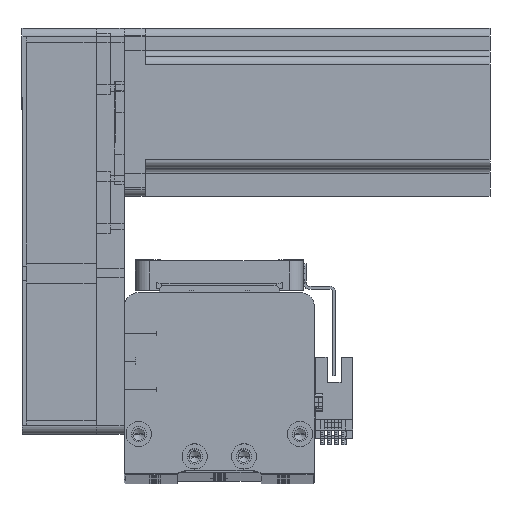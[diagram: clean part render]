
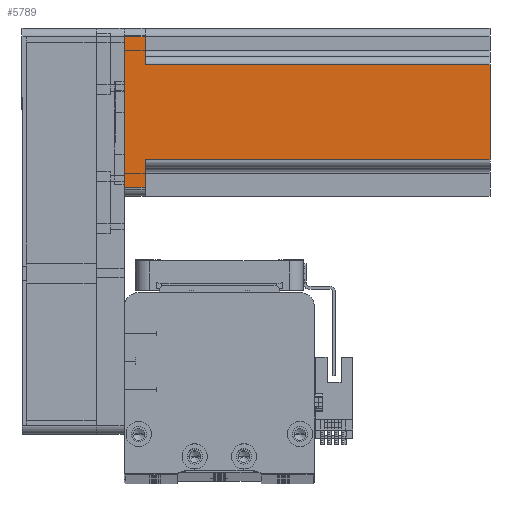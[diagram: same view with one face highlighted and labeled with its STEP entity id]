
A CAD part, top view. The second image highlights one B-rep face of the part: STEP entity #5789.
In plain terms, the highlighted planar face has unit normal (0, 0, 1) as drawn and (0, 1, 0) by its records, which use the part's own axes.
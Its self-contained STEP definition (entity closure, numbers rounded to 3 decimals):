
#246 = DIRECTION ( 'NONE',  ( 0., 0., -1. ) ) ;
#1375 = DIRECTION ( 'NONE',  ( -1., 0., 0. ) ) ;
#2263 = CARTESIAN_POINT ( 'NONE',  ( -17., 30., 7.5 ) ) ;
#2481 = VECTOR ( 'NONE', #15881, 1000. ) ;
#4200 = CARTESIAN_POINT ( 'NONE',  ( -27., 30., 7.5 ) ) ;
#4657 = ORIENTED_EDGE ( 'NONE', *, *, #43539, .F. ) ;
#5789 = ADVANCED_FACE ( 'NONE', ( #48370 ), #31025, .F. ) ;
#6629 = CARTESIAN_POINT ( 'NONE',  ( 20., 30., 7.5 ) ) ;
#7152 = LINE ( 'NONE', #55230, #29841 ) ;
#8153 = EDGE_CURVE ( 'NONE', #43929, #34220, #9747, .T. ) ;
#8411 = VECTOR ( 'NONE', #1375, 1000. ) ;
#9747 = LINE ( 'NONE', #14029, #8411 ) ;
#10971 = VECTOR ( 'NONE', #36544, 1000. ) ;
#12207 = CARTESIAN_POINT ( 'NONE',  ( -17., 30., 130.7 ) ) ;
#12593 = VECTOR ( 'NONE', #18050, 1000. ) ;
#13607 = LINE ( 'NONE', #6629, #10971 ) ;
#13898 = LINE ( 'NONE', #30751, #12593 ) ;
#14029 = CARTESIAN_POINT ( 'NONE',  ( 30., 30., 130.7 ) ) ;
#15881 = DIRECTION ( 'NONE',  ( 1., 0., 0. ) ) ;
#16644 = ORIENTED_EDGE ( 'NONE', *, *, #45602, .T. ) ;
#18050 = DIRECTION ( 'NONE',  ( 0., 0., 1. ) ) ;
#20212 = EDGE_CURVE ( 'NONE', #36734, #48237, #36605, .T. ) ;
#20255 = CARTESIAN_POINT ( 'NONE',  ( 27., 30., 0. ) ) ;
#20599 = DIRECTION ( 'NONE',  ( -1., 0., 0. ) ) ;
#22636 = CARTESIAN_POINT ( 'NONE',  ( 30., 30., 130.7 ) ) ;
#24329 = CARTESIAN_POINT ( 'NONE',  ( -20., 30., 7.5 ) ) ;
#24530 = CARTESIAN_POINT ( 'NONE',  ( 17., 30., 7.5 ) ) ;
#24917 = CARTESIAN_POINT ( 'NONE',  ( -17., 30., 130.7 ) ) ;
#26913 = DIRECTION ( 'NONE',  ( 1., 0., 0. ) ) ;
#27894 = LINE ( 'NONE', #12207, #36600 ) ;
#29554 = DIRECTION ( 'NONE',  ( 0., 0., -1. ) ) ;
#29841 = VECTOR ( 'NONE', #29554, 1000. ) ;
#30642 = ORIENTED_EDGE ( 'NONE', *, *, #20212, .T. ) ;
#30751 = CARTESIAN_POINT ( 'NONE',  ( -27., 30., 130.7 ) ) ;
#30843 = CARTESIAN_POINT ( 'NONE',  ( 17., 30., 130.7 ) ) ;
#31025 = PLANE ( 'NONE',  #50646 ) ;
#33492 = CARTESIAN_POINT ( 'NONE',  ( 30., 30., 0. ) ) ;
#34188 = VERTEX_POINT ( 'NONE', #20255 ) ;
#34220 = VERTEX_POINT ( 'NONE', #24917 ) ;
#34345 = VERTEX_POINT ( 'NONE', #51668 ) ;
#34818 = ORIENTED_EDGE ( 'NONE', *, *, #44753, .T. ) ;
#35394 = ORIENTED_EDGE ( 'NONE', *, *, #8153, .F. ) ;
#36544 = DIRECTION ( 'NONE',  ( -1., 0., 0. ) ) ;
#36600 = VECTOR ( 'NONE', #37817, 1000. ) ;
#36605 = LINE ( 'NONE', #24329, #2481 ) ;
#36734 = VERTEX_POINT ( 'NONE', #4200 ) ;
#37564 = EDGE_LOOP ( 'NONE', ( #30642, #46134, #35394, #16644, #4657, #52880, #53555, #34818 ) ) ;
#37817 = DIRECTION ( 'NONE',  ( 0., 0., 1. ) ) ;
#38411 = CARTESIAN_POINT ( 'NONE',  ( 27., 30., 130.7 ) ) ;
#40173 = LINE ( 'NONE', #33492, #48875 ) ;
#42588 = EDGE_CURVE ( 'NONE', #34188, #34345, #40173, .T. ) ;
#43539 = EDGE_CURVE ( 'NONE', #47312, #50214, #13607, .T. ) ;
#43768 = LINE ( 'NONE', #38411, #55149 ) ;
#43929 = VERTEX_POINT ( 'NONE', #30843 ) ;
#44753 = EDGE_CURVE ( 'NONE', #34345, #36734, #13898, .T. ) ;
#45602 = EDGE_CURVE ( 'NONE', #43929, #50214, #7152, .T. ) ;
#45783 = CARTESIAN_POINT ( 'NONE',  ( 27., 30., 7.5 ) ) ;
#45871 = EDGE_CURVE ( 'NONE', #48237, #34220, #27894, .T. ) ;
#46134 = ORIENTED_EDGE ( 'NONE', *, *, #45871, .T. ) ;
#47312 = VERTEX_POINT ( 'NONE', #45783 ) ;
#48237 = VERTEX_POINT ( 'NONE', #2263 ) ;
#48370 = FACE_OUTER_BOUND ( 'NONE', #37564, .T. ) ;
#48875 = VECTOR ( 'NONE', #20599, 1000. ) ;
#50214 = VERTEX_POINT ( 'NONE', #24530 ) ;
#50646 = AXIS2_PLACEMENT_3D ( 'NONE', #22636, #52604, #26913 ) ;
#51668 = CARTESIAN_POINT ( 'NONE',  ( -27., 30., 0. ) ) ;
#52604 = DIRECTION ( 'NONE',  ( 0., -1., 0. ) ) ;
#52880 = ORIENTED_EDGE ( 'NONE', *, *, #54672, .T. ) ;
#53555 = ORIENTED_EDGE ( 'NONE', *, *, #42588, .T. ) ;
#54672 = EDGE_CURVE ( 'NONE', #47312, #34188, #43768, .T. ) ;
#55149 = VECTOR ( 'NONE', #246, 1000. ) ;
#55230 = CARTESIAN_POINT ( 'NONE',  ( 17., 30., 130.7 ) ) ;
